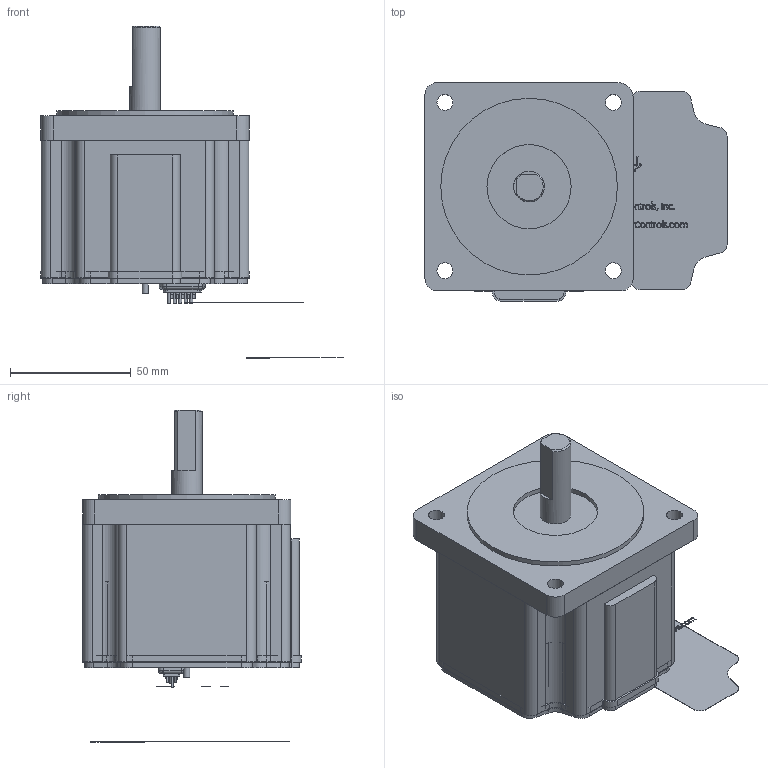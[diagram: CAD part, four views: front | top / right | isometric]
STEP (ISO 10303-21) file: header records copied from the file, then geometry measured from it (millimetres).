
FILE_DESCRIPTION(/* description */ ('Alibre Inc.'),/* implementation_level */ '2;1');
FILE_NAME(/* name */ 'export0',/* time_stamp */ '2008-02-22T09:50:36-08:00',/* author */ (''),/* organization */ (''),/* preprocessor_version */ 'ST-DEVELOPER v10',/* originating_system */ 'Alibre',/* authorisation */ '');
FILE_SCHEMA (('ALIBRE_SCHEMA','CONFIG_CONTROL_DESIGN'));
Length unit declared in the file: inch
Products named in the file (10): ID_1
Bounding box: 124.92 x 90.42 x 137.29 mm (x, y, z)
Volume: 497920.2 mm3; surface area: 86717.2 mm2
Topology: 62 solids, 62 shells, 1916 faces, 4990 edges, 3270 vertices
Faces by surface type: plane 930, bspline 641, cylinder 293, torus 50, cone 2
Full cylindrical faces by diameter (mm): 2.489 x1, 2.87 x1, 3.048 x2, 6.604 x4, 9.525 x2, 12.7 x1, 25.4 x1, 34.798 x1, 73.025 x1
Entity records: 116983 total; most frequent: CARTESIAN_POINT 34808, ORIENTED_EDGE 12716, DIRECTION 8718, EDGE_CURVE 6358, CONSTRAINTPAIRUV 4858, VECTOR 4704, PERSISTANTTOPOLOGYATTRIBUTE 4398, LINE 4346
